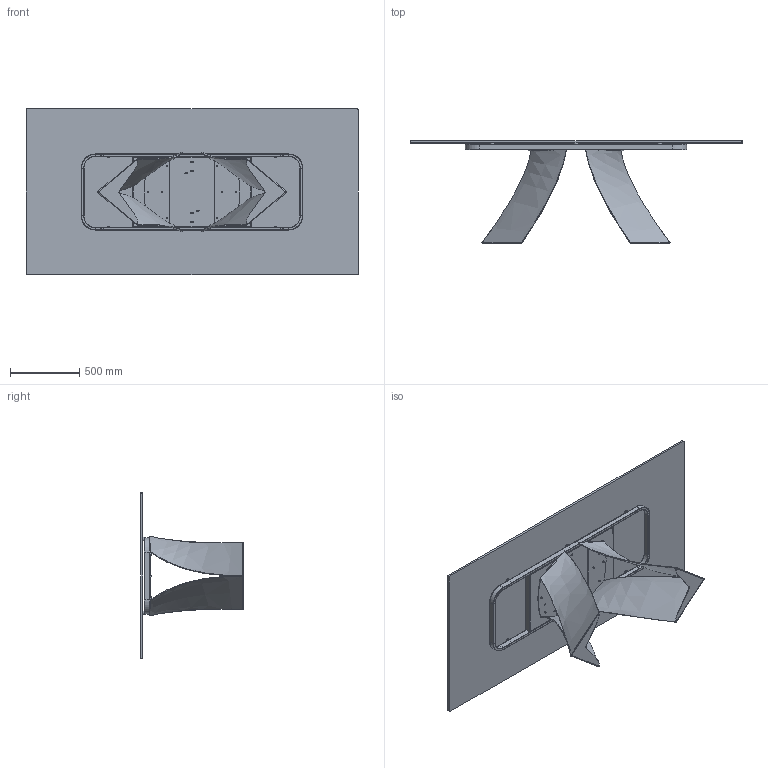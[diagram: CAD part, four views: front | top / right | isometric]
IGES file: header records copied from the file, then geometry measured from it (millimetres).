
Start section: SolidWorks IGES file using analytic representation for surfaces
Global section: file name: Y:\eforma\TECNICO\SOLIDWORKS\E-FORMA\1-TAVOLI\TWIST\02 parts\TW23G.IGS; native system: SolidWorks 2022; preprocessor: SolidWorks 2022; author: eforma.tech; date: 240807.143825; units: millimetre
Bounding box: 2400 x 740.37 x 1200 mm (x, y, z)
Volume: 53615347.3 mm3; surface area: 10279735.1 mm2
Topology: 56 solids, 56 shells, 1108 faces, 2582 edges, 1574 vertices
Faces by surface type: revolution 614, plane 428, bspline 66
